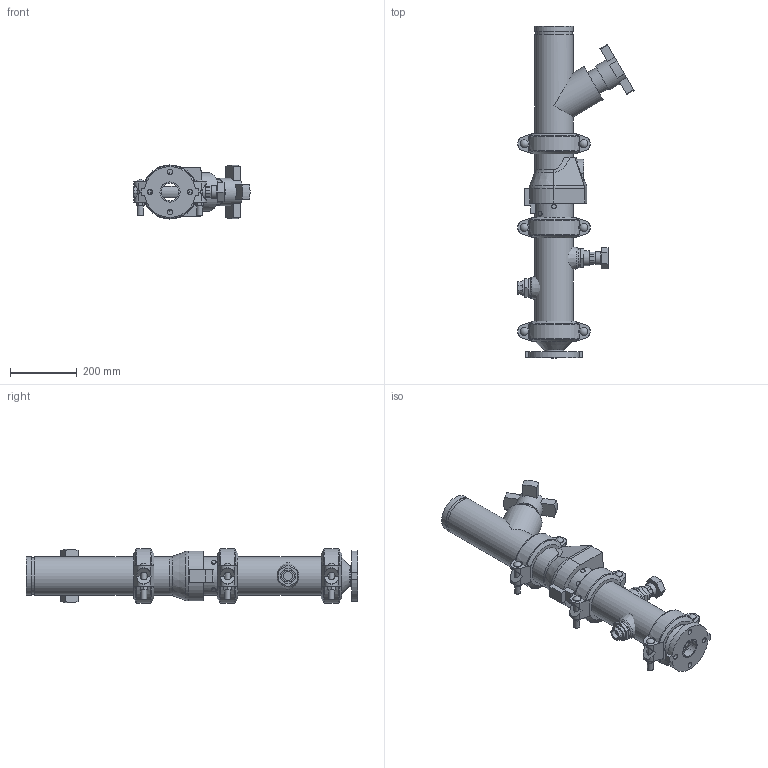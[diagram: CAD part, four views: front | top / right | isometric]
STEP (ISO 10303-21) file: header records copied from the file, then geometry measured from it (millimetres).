
FILE_DESCRIPTION(/* description */ ('VIC DVI PUMP DROP VERT S/383 (OGSxFLG) (S/924-1.25)','CAx-IF Rec.Pracs.---Representation and Presentation of Product Manufacturing Information (PMI)---4.0---2014-10-13'),/* implementation_level */ '2;1');
FILE_NAME(/* name */ 'C:\Users\Public\Documents\Victaulic.Temp\A849\Victaulic_IPS_Vertical DVI_CL 150_Series 383 (OGSxFLG)_924 (1.25)_04.0x02.0 (100x50).stp',/* time_stamp */ '2022-07-25T11:38:41+02:00',/* author */ ('Vjadhav'),/* organization */ ('Victaulic'),/* preprocessor_version */ 'ST-DEVELOPER v18',/* originating_system */ 'Autodesk Inventor 2020',/* authorisation */ '');
FILE_SCHEMA (('AP242_MANAGED_MODEL_BASED_3D_ENGINEERING_MIM_LF { 1 0 10303 442 1 1 4 }'));
Length unit declared in the file: inch
Products named in the file (9): 383_924 (1.25)-04.0x02.0; 741-02.0; 050-04.0x02.0; Pipe-04.0; 177N-04.0; 789-04.0; 779-04.0; 924-04.0x01.25; 923-04.0x0.75
Assembly tree (10 placements, depth 2):
  383_924 (1.25)-04.0x02.0
    741-02.0
    050-04.0x02.0
    177N-04.0  x3
    Pipe-04.0
    789-04.0
    779-04.0
    924-04.0x01.25
    923-04.0x0.75
Bounding box: 347.73 x 993.9 x 162.05 mm (x, y, z)
Volume: 7360010.8 mm3; surface area: 1233176.6 mm2
Topology: 10 solids, 11 shells, 547 faces, 1460 edges, 975 vertices
Faces by surface type: plane 322, cylinder 180, cone 19, torus 18, sphere 6, bspline 2
Full cylindrical faces by diameter (mm): 13.716 x2, 15.875 x4, 17.424 x6, 21.336 x1, 23.495 x6, 26.67 x2, 38.608 x1, 42.164 x1, 45.974 x4, 48.514 x1, 52.502 x1, 55.626 x2, 57.15 x1, 60.325 x3, 72.39 x1, 82.55 x1, 101.6 x3, 102.26 x4, 110.084 x7, 114.3 x19
Entity records: 12448 total; most frequent: CARTESIAN_POINT 2503, DIRECTION 2046, ORIENTED_EDGE 1868, EDGE_CURVE 934, AXIS2_PLACEMENT_3D 776, VERTEX_POINT 631, LINE 494, VECTOR 494
